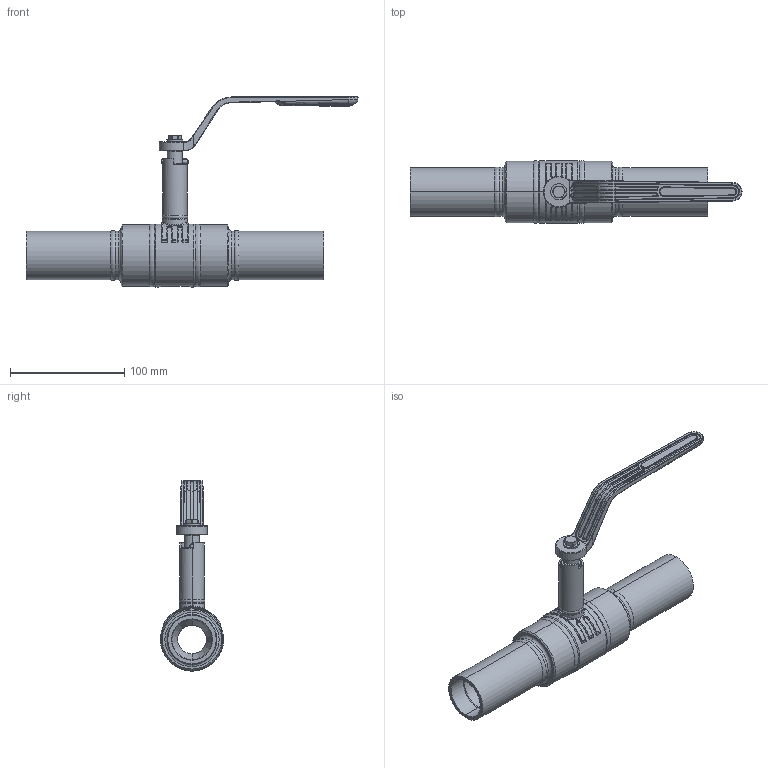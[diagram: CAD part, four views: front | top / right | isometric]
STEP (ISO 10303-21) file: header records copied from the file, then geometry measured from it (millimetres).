
FILE_DESCRIPTION((''),'2;1');
FILE_NAME('KHMO-S-R-H-032R025P04_SW0001','2022-10-18T15:42:40',('jeitlers'),('KLINGER'),'CREO PARAMETRIC BY PTC INC, 2020184','CREO PARAMETRIC BY PTC INC, 2020184','');
FILE_SCHEMA(('AUTOMOTIVE_DESIGN { 1 0 10303 214 1 1 1 1 }'));
Length unit declared in the file: millimetre
Products named in the file (1): KHMO-S-R-H-032R025P04_SW0001
Bounding box: 290 x 55 x 166 mm (x, y, z)
Volume: 259393.7 mm3; surface area: 106228.1 mm2
Topology: 1 solids, 1 shells, 695 faces, 1554 edges, 882 vertices
Faces by surface type: cylinder 225, bspline 142, plane 116, torus 109, cone 90, sphere 8, extrusion 5
Entity records: 38694 total; most frequent: CARTESIAN_POINT 23019, ORIENTED_EDGE 3104, DIRECTION 3057, EDGE_CURVE 1552, AXIS2_PLACEMENT_3D 1283, VERTEX_POINT 882, EDGE_LOOP 734, CIRCLE 722
